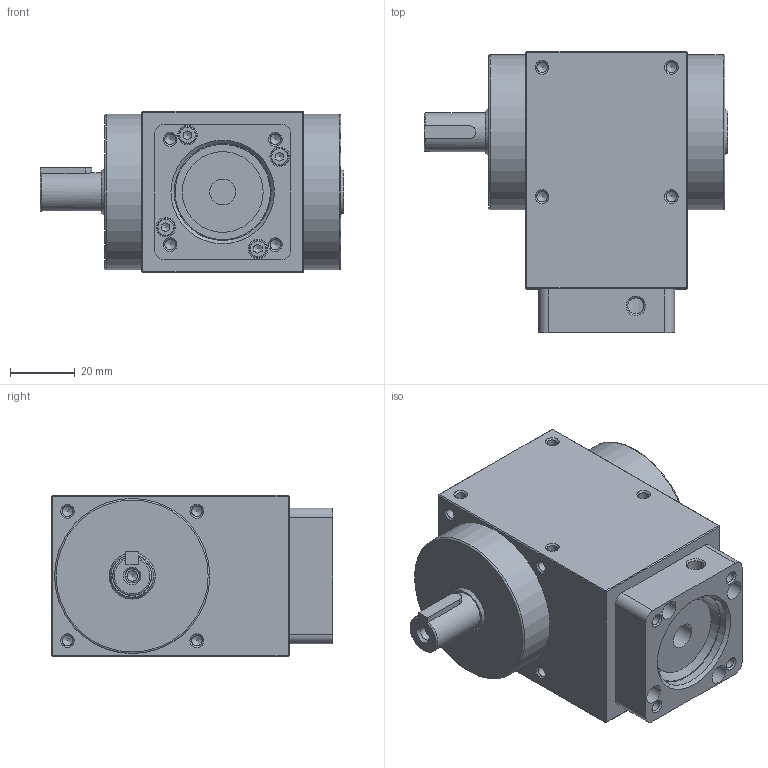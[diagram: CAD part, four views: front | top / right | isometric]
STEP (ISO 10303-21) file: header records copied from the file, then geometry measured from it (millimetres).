
FILE_DESCRIPTION((''),'2;1');
FILE_NAME('D:\유성\SBT 베벨기어박스\최종도면모음\3D\SBT050\SBT050MLS001K.stp','2014-05-19T15:32:18',(''),(''),'Autodesk Inventor 2013','Autodesk Inventor 2013','');
FILE_SCHEMA(('AUTOMOTIVE_DESIGN { 1 0 10303 214 1 1 1 1 }'));
Length unit declared in the file: millimetre
Products named in the file (1): SBT050MLS001K_Shrinkwrap_1
Bounding box: 94 x 87 x 50 mm (x, y, z)
Volume: 242483.4 mm3; surface area: 32464.9 mm2
Topology: 1 solids, 2 shells, 232 faces, 613 edges, 378 vertices
Faces by surface type: plane 79, cylinder 79, cone 63, torus 11
Full cylindrical faces by diameter (mm): 3 x4, 3.242 x45, 3.4 x4, 4 x2, 4.3 x1, 5 x1, 5.5 x4, 6 x4, 8 x1, 12 x1, 25 x1, 29.5 x1, 30 x1, 38 x2, 48 x2
Entity records: 5934 total; most frequent: CARTESIAN_POINT 1100, DIRECTION 1048, ORIENTED_EDGE 776, AXIS2_PLACEMENT_3D 461, EDGE_LOOP 408, EDGE_CURVE 388, VERTEX_POINT 300, FACE_OUTER_BOUND 232
